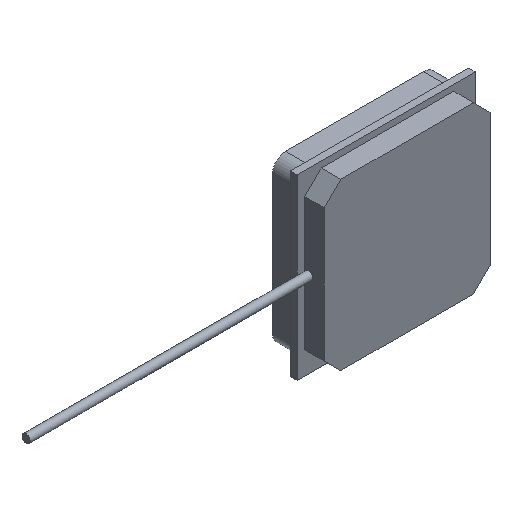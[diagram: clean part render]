
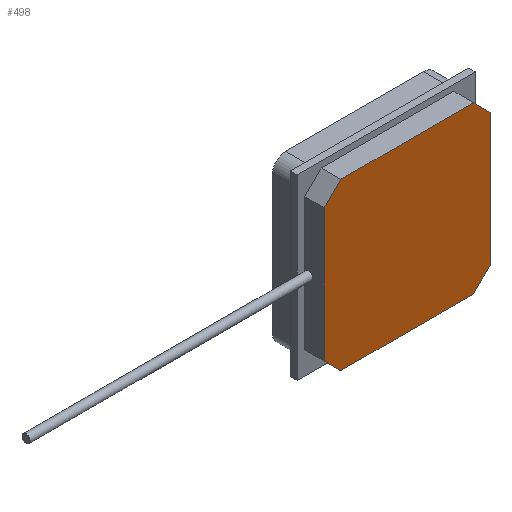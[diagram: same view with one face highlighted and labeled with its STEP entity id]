
A CAD part, isometric view. The second image highlights one B-rep face of the part: STEP entity #498.
In plain terms, the highlighted planar face has unit normal (0, -1, 0).
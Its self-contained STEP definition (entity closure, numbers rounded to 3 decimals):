
#31=PLANE('',#542);
#54=FACE_OUTER_BOUND('',#82,.T.);
#82=EDGE_LOOP('',(#367,#368,#369,#370,#371,#372,#373,#374));
#118=LINE('',#718,#172);
#121=LINE('',#724,#175);
#124=LINE('',#730,#178);
#127=LINE('',#736,#181);
#130=LINE('',#742,#184);
#133=LINE('',#748,#187);
#136=LINE('',#754,#190);
#139=LINE('',#758,#193);
#172=VECTOR('',#582,10.);
#175=VECTOR('',#587,10.);
#178=VECTOR('',#592,10.);
#181=VECTOR('',#597,10.);
#184=VECTOR('',#602,10.);
#187=VECTOR('',#607,10.);
#190=VECTOR('',#612,10.);
#193=VECTOR('',#617,10.);
#227=VERTEX_POINT('',#715);
#228=VERTEX_POINT('',#717);
#230=VERTEX_POINT('',#723);
#232=VERTEX_POINT('',#729);
#234=VERTEX_POINT('',#735);
#236=VERTEX_POINT('',#741);
#238=VERTEX_POINT('',#747);
#240=VERTEX_POINT('',#753);
#271=EDGE_CURVE('',#228,#227,#118,.T.);
#274=EDGE_CURVE('',#230,#228,#121,.T.);
#277=EDGE_CURVE('',#232,#230,#124,.T.);
#280=EDGE_CURVE('',#234,#232,#127,.T.);
#283=EDGE_CURVE('',#236,#234,#130,.T.);
#286=EDGE_CURVE('',#238,#236,#133,.T.);
#289=EDGE_CURVE('',#240,#238,#136,.T.);
#292=EDGE_CURVE('',#227,#240,#139,.T.);
#367=ORIENTED_EDGE('',*,*,#292,.T.);
#368=ORIENTED_EDGE('',*,*,#289,.T.);
#369=ORIENTED_EDGE('',*,*,#286,.T.);
#370=ORIENTED_EDGE('',*,*,#283,.T.);
#371=ORIENTED_EDGE('',*,*,#280,.T.);
#372=ORIENTED_EDGE('',*,*,#277,.T.);
#373=ORIENTED_EDGE('',*,*,#274,.T.);
#374=ORIENTED_EDGE('',*,*,#271,.T.);
#498=ADVANCED_FACE('',(#54),#31,.T.);
#542=AXIS2_PLACEMENT_3D('',#759,#618,#619);
#582=DIRECTION('',(0.707,0.,0.707));
#587=DIRECTION('',(1.,0.,0.));
#592=DIRECTION('',(0.707,0.,-0.707));
#597=DIRECTION('',(0.,0.,-1.));
#602=DIRECTION('',(-0.707,0.,-0.707));
#607=DIRECTION('',(-1.,0.,0.));
#612=DIRECTION('',(-0.707,0.,0.707));
#617=DIRECTION('',(0.,0.,1.));
#618=DIRECTION('center_axis',(0.,-1.,0.));
#619=DIRECTION('ref_axis',(0.,0.,-1.));
#715=CARTESIAN_POINT('',(12.6,-3.,-10.1));
#717=CARTESIAN_POINT('',(10.1,-3.,-12.6));
#718=CARTESIAN_POINT('',(12.6,-3.,-10.1));
#723=CARTESIAN_POINT('',(-10.1,-3.,-12.6));
#724=CARTESIAN_POINT('',(-10.1,-3.,-12.6));
#729=CARTESIAN_POINT('',(-12.6,-3.,-10.1));
#730=CARTESIAN_POINT('',(-10.1,-3.,-12.6));
#735=CARTESIAN_POINT('',(-12.6,-3.,10.1));
#736=CARTESIAN_POINT('',(-12.6,-3.,10.1));
#741=CARTESIAN_POINT('',(-10.1,-3.,12.6));
#742=CARTESIAN_POINT('',(-10.1,-3.,12.6));
#747=CARTESIAN_POINT('',(10.1,-3.,12.6));
#748=CARTESIAN_POINT('',(10.1,-3.,12.6));
#753=CARTESIAN_POINT('',(12.6,-3.,10.1));
#754=CARTESIAN_POINT('',(10.1,-3.,12.6));
#758=CARTESIAN_POINT('',(12.6,-3.,-10.1));
#759=CARTESIAN_POINT('Origin',(0.,-3.,0.));
